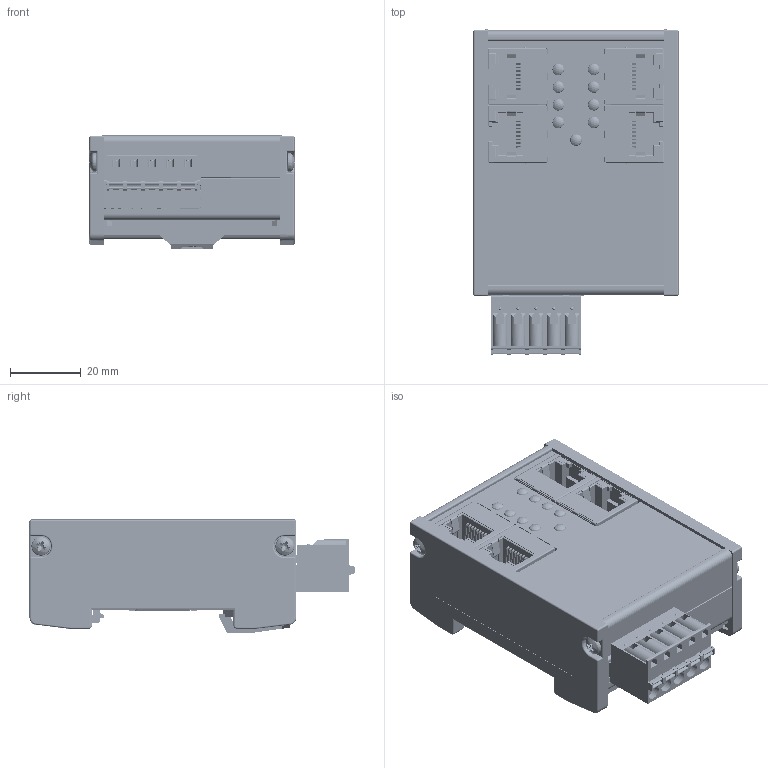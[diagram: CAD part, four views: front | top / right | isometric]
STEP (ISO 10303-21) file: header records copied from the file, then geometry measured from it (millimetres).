
FILE_DESCRIPTION (( 'STEP AP214' ), '1' );
FILE_NAME ('700-159-3MB02_V00-00.STEP', '2020-03-02T10:12:05', ( '' ), ( '' ), 'SwSTEP 2.0', 'SolidWorks 2020', '' );
FILE_SCHEMA (( 'AUTOMOTIVE_DESIGN' ));
Length unit declared in the file: millimetre
Products named in the file (1): 700-159-3MB02_V00-00
Bounding box: 58 x 91.93 x 31.98 mm (x, y, z)
Surface area: 84440.1 mm2 (no closed solid volume)
Topology: 0 solids, 807 shells, 23668 faces, 60337 edges, 37977 vertices
Faces by surface type: plane 15615, bspline 3849, cylinder 3836, cone 196, sphere 150, torus 22
Entity records: 1113131 total; most frequent: CARTESIAN_POINT 300440, ORIENTED_EDGE 118518, DIRECTION 99915, EDGE_CURVE 59305, LINE 44629, VECTOR 44629, VERTEX_POINT 37977, AXIS2_PLACEMENT_3D 27643
